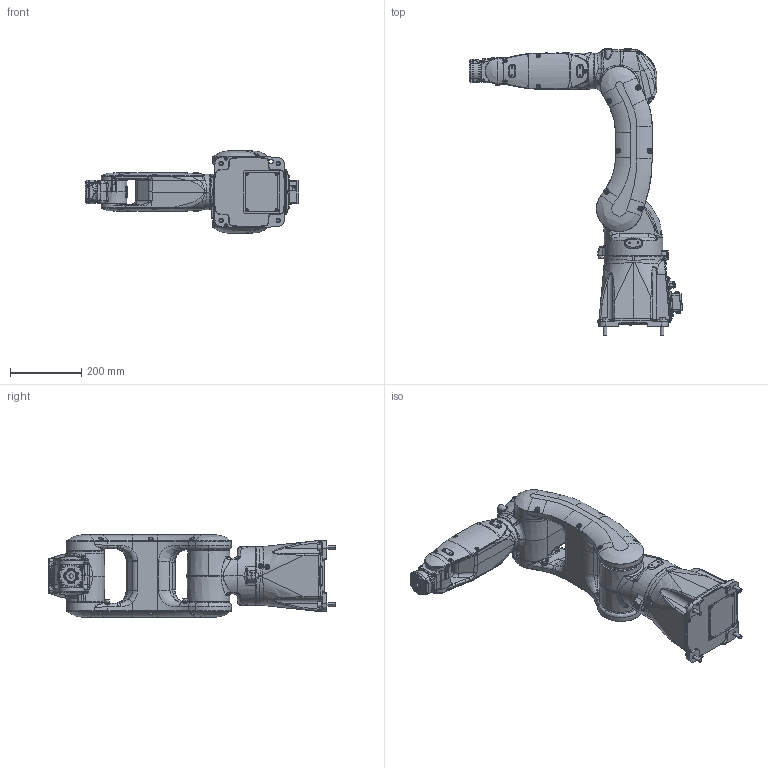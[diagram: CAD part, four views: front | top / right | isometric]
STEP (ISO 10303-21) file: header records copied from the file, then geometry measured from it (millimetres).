
FILE_DESCRIPTION((''),'2;1');
FILE_NAME('000_GP8_ASM','2017-10-27T',('s-koga'),('YASKAWA ELECTRIC CORPORATION'),'PRO/ENGINEER BY PARAMETRIC TECHNOLOGY CORPORATION, 2015030','PRO/ENGINEER BY PARAMETRIC TECHNOLOGY CORPORATION, 2015030','');
FILE_SCHEMA(('CONFIG_CONTROL_DESIGN'));
Products named in the file (9): GP8_BASE; GP8_S; GP8_L; GP8_U; GP8_R; GP8_B; GP8_T; M10X40_HEXSOC-CAP-SCR_12P9_FSW; 000_GP8_ASM
Assembly tree (11 placements, depth 2):
  000_GP8_ASM
    GP8_BASE
    GP8_S
    GP8_L
    GP8_U
    GP8_R
    GP8_B
    GP8_T
    M10X40_HEXSOC-CAP-SCR_12P9_FSW  x4
Bounding box: 597.33 x 803.02 x 230 mm (x, y, z)
Volume: 20243309.1 mm3; surface area: 977348.1 mm2
Topology: 11 solids, 25 shells, 4868 faces, 13904 edges, 9205 vertices
Faces by surface type: plane 1801, cylinder 1272, bspline 1077, cone 336, torus 288, sphere 73, extrusion 16, revolution 5
Entity records: 229433 total; most frequent: CARTESIAN_POINT 115076, ORIENTED_EDGE 27172, DIRECTION 19625, EDGE_CURVE 13592, VERTEX_POINT 9049, AXIS2_PLACEMENT_3D 7629, B_SPLINE_CURVE_WITH_KNOTS 5334, EDGE_LOOP 5073
